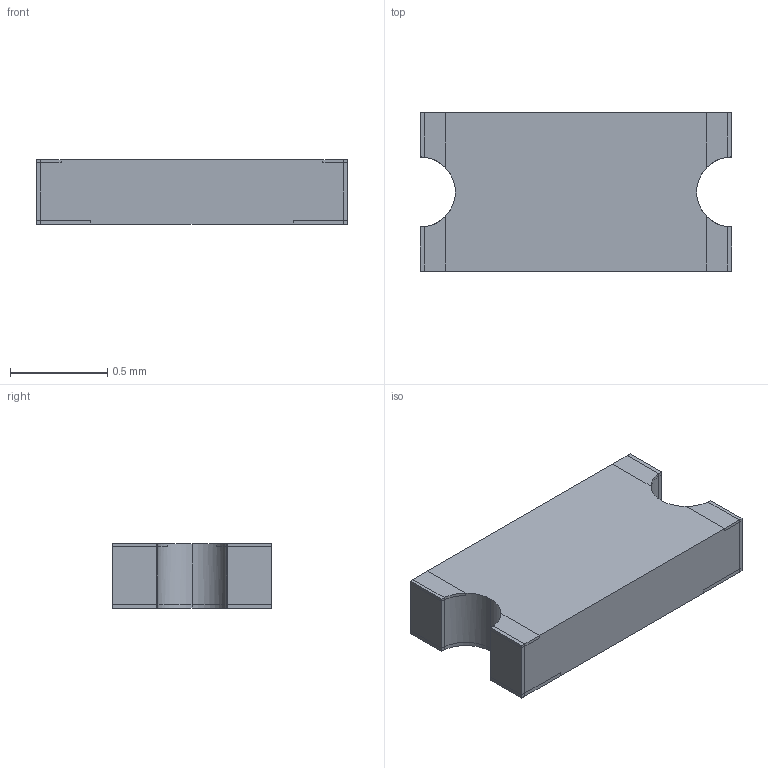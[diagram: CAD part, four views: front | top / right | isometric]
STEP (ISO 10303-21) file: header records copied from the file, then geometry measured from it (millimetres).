
FILE_DESCRIPTION(('Open CASCADE Model'),'2;1');
FILE_NAME('Open CASCADE Shape Model','2026-10-04T11:36:05',('Author'),( 'Open CASCADE'),'Open CASCADE STEP processor 7.9','Open CASCADE 7.9' ,'Unknown');
FILE_SCHEMA(('AUTOMOTIVE_DESIGN { 1 0 10303 214 1 1 1 1 }'));
Length unit declared in the file: millimetre
Products named in the file (3): Littelfuse_467_0603_Nominal; package_body; terminals
Assembly tree (2 placements, depth 2):
  Littelfuse_467_0603_Nominal
    package_body
    terminals
Bounding box: 1.6 x 0.81 x 0.33 mm (x, y, z)
Volume: 0.4 mm3; surface area: 5.9 mm2
Topology: 11 solids, 11 shells, 88 faces, 198 edges, 132 vertices
Faces by surface type: plane 74, cylinder 14
Entity records: 5155 total; most frequent: CARTESIAN_POINT 1065, DIRECTION 720, LINE 474, VECTOR 474, ORIENTED_EDGE 396, PCURVE 396, DEFINITIONAL_REPRESENTATION 396, EDGE_CURVE 198
